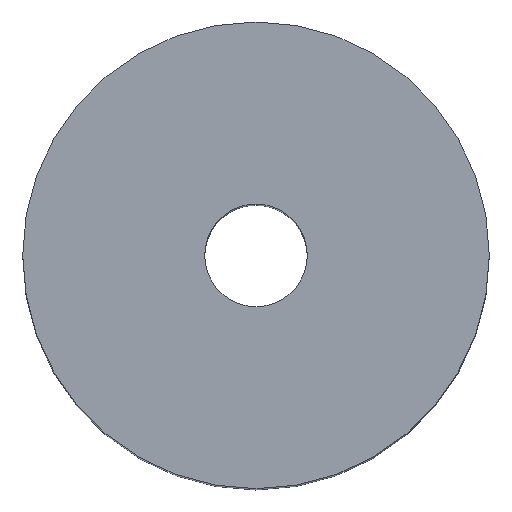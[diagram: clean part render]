
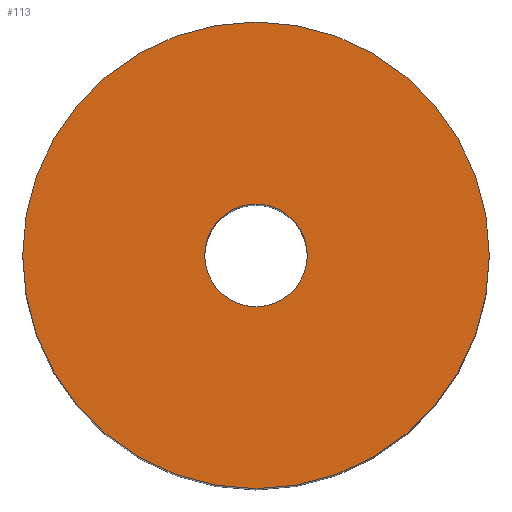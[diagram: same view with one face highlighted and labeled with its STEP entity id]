
A CAD part, top view. The second image highlights one B-rep face of the part: STEP entity #113.
In plain terms, the highlighted planar face has unit normal (0, 0, 1).
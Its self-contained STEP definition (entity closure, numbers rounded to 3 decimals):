
#113=ADVANCED_FACE('',(#121,#122),#119,.T.);
#119=PLANE('',#190);
#121=FACE_BOUND('',#125,.T.);
#122=FACE_BOUND('',#126,.T.);
#125=EDGE_LOOP('',(#133,#134));
#126=EDGE_LOOP('',(#135,#136));
#133=ORIENTED_EDGE('',*,*,#165,.T.);
#134=ORIENTED_EDGE('',*,*,#166,.T.);
#135=ORIENTED_EDGE('',*,*,#167,.F.);
#136=ORIENTED_EDGE('',*,*,#168,.F.);
#157=VERTEX_POINT('',#236);
#158=VERTEX_POINT('',#237);
#159=VERTEX_POINT('',#240);
#160=VERTEX_POINT('',#241);
#165=EDGE_CURVE('',#157,#158,#177,.T.);
#166=EDGE_CURVE('',#158,#157,#178,.T.);
#167=EDGE_CURVE('',#159,#160,#179,.T.);
#168=EDGE_CURVE('',#160,#159,#180,.T.);
#177=CIRCLE('',#186,50.);
#178=CIRCLE('',#187,50.);
#179=CIRCLE('',#188,11.);
#180=CIRCLE('',#189,11.);
#186=AXIS2_PLACEMENT_3D('',#235,#202,#203);
#187=AXIS2_PLACEMENT_3D('',#238,#204,#205);
#188=AXIS2_PLACEMENT_3D('',#239,#206,#207);
#189=AXIS2_PLACEMENT_3D('',#242,#208,#209);
#190=AXIS2_PLACEMENT_3D('',#243,#210,#211);
#202=DIRECTION('',(0.,0.,1.));
#203=DIRECTION('',(0.,1.,0.));
#204=DIRECTION('',(0.,0.,1.));
#205=DIRECTION('',(0.,-1.,0.));
#206=DIRECTION('',(0.,0.,1.));
#207=DIRECTION('',(0.,-1.,0.));
#208=DIRECTION('',(0.,0.,1.));
#209=DIRECTION('',(0.,1.,0.));
#210=DIRECTION('',(0.,0.,1.));
#211=DIRECTION('',(0.,1.,0.));
#235=CARTESIAN_POINT('',(0.,0.,160.));
#236=CARTESIAN_POINT('',(-50.,0.,160.));
#237=CARTESIAN_POINT('',(50.,0.,160.));
#238=CARTESIAN_POINT('',(0.,0.,160.));
#239=CARTESIAN_POINT('',(0.,0.,160.));
#240=CARTESIAN_POINT('',(11.,0.,160.));
#241=CARTESIAN_POINT('',(-11.,0.,160.));
#242=CARTESIAN_POINT('',(0.,0.,160.));
#243=CARTESIAN_POINT('',(0.,0.,160.));
